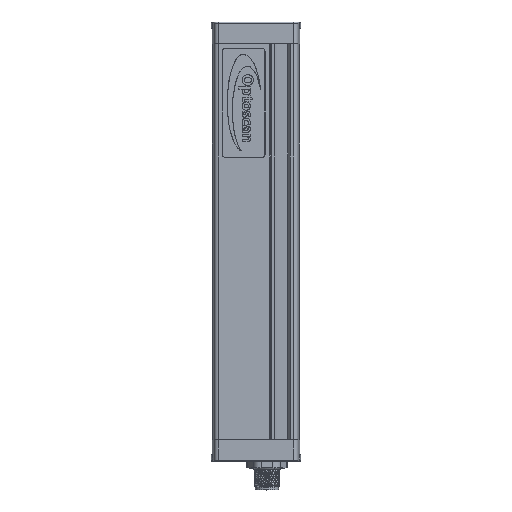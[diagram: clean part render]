
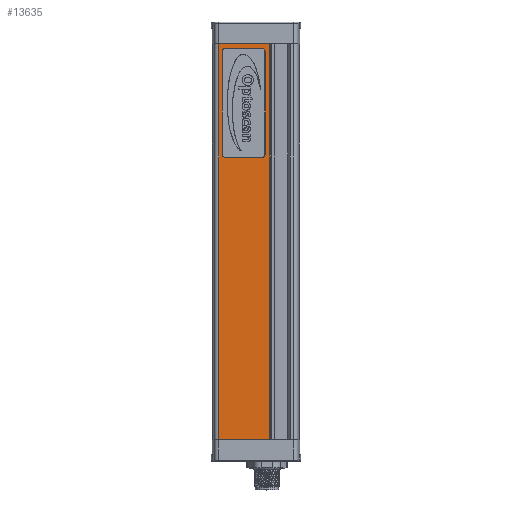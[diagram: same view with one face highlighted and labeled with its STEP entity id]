
A CAD part, top view. The second image highlights one B-rep face of the part: STEP entity #13635.
In plain terms, the highlighted planar face has unit normal (0, 0, 1).
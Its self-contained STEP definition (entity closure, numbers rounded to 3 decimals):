
#165=FACE_BOUND('',#2115,.T.);
#475=CIRCLE('',#14507,1.49);
#476=CIRCLE('',#14508,1.49);
#477=CIRCLE('',#14509,1.49);
#478=CIRCLE('',#14510,1.49);
#992=PLANE('',#14506);
#1357=FACE_OUTER_BOUND('',#2114,.T.);
#2114=EDGE_LOOP('',(#9142,#9143,#9144,#9145));
#2115=EDGE_LOOP('',(#9146,#9147,#9148,#9149,#9150,#9151,#9152,#9153));
#3341=LINE('',#20186,#4403);
#3353=LINE('',#20220,#4415);
#3367=LINE('',#20257,#4429);
#3368=LINE('',#20258,#4430);
#3369=LINE('',#20263,#4431);
#3370=LINE('',#20267,#4432);
#3371=LINE('',#20271,#4433);
#3372=LINE('',#20274,#4434);
#4403=VECTOR('',#16079,10.);
#4415=VECTOR('',#16103,10.);
#4429=VECTOR('',#16131,10.);
#4430=VECTOR('',#16132,10.);
#4431=VECTOR('',#16135,10.);
#4432=VECTOR('',#16138,10.);
#4433=VECTOR('',#16141,10.);
#4434=VECTOR('',#16144,10.);
#5562=VERTEX_POINT('',#20183);
#5563=VERTEX_POINT('',#20185);
#5578=VERTEX_POINT('',#20217);
#5579=VERTEX_POINT('',#20219);
#5596=VERTEX_POINT('',#20259);
#5597=VERTEX_POINT('',#20260);
#5598=VERTEX_POINT('',#20262);
#5599=VERTEX_POINT('',#20264);
#5600=VERTEX_POINT('',#20266);
#5601=VERTEX_POINT('',#20268);
#5602=VERTEX_POINT('',#20270);
#5603=VERTEX_POINT('',#20272);
#6916=EDGE_CURVE('',#5562,#5563,#3341,.T.);
#6932=EDGE_CURVE('',#5579,#5578,#3353,.T.);
#6950=EDGE_CURVE('',#5578,#5563,#3367,.T.);
#6951=EDGE_CURVE('',#5579,#5562,#3368,.T.);
#6952=EDGE_CURVE('',#5596,#5597,#475,.T.);
#6953=EDGE_CURVE('',#5598,#5596,#3369,.T.);
#6954=EDGE_CURVE('',#5599,#5598,#476,.T.);
#6955=EDGE_CURVE('',#5600,#5599,#3370,.T.);
#6956=EDGE_CURVE('',#5601,#5600,#477,.T.);
#6957=EDGE_CURVE('',#5602,#5601,#3371,.T.);
#6958=EDGE_CURVE('',#5603,#5602,#478,.T.);
#6959=EDGE_CURVE('',#5597,#5603,#3372,.T.);
#9142=ORIENTED_EDGE('',*,*,#6932,.T.);
#9143=ORIENTED_EDGE('',*,*,#6950,.T.);
#9144=ORIENTED_EDGE('',*,*,#6916,.F.);
#9145=ORIENTED_EDGE('',*,*,#6951,.F.);
#9146=ORIENTED_EDGE('',*,*,#6952,.F.);
#9147=ORIENTED_EDGE('',*,*,#6953,.F.);
#9148=ORIENTED_EDGE('',*,*,#6954,.F.);
#9149=ORIENTED_EDGE('',*,*,#6955,.F.);
#9150=ORIENTED_EDGE('',*,*,#6956,.F.);
#9151=ORIENTED_EDGE('',*,*,#6957,.F.);
#9152=ORIENTED_EDGE('',*,*,#6958,.F.);
#9153=ORIENTED_EDGE('',*,*,#6959,.F.);
#13635=ADVANCED_FACE('',(#1357,#165),#992,.T.);
#14506=AXIS2_PLACEMENT_3D('',#20256,#16129,#16130);
#14507=AXIS2_PLACEMENT_3D('',#20261,#16133,#16134);
#14508=AXIS2_PLACEMENT_3D('',#20265,#16136,#16137);
#14509=AXIS2_PLACEMENT_3D('',#20269,#16139,#16140);
#14510=AXIS2_PLACEMENT_3D('',#20273,#16142,#16143);
#16079=DIRECTION('',(1.,0.,0.));
#16103=DIRECTION('',(1.,0.,0.));
#16129=DIRECTION('center_axis',(0.,0.,
1.));
#16130=DIRECTION('ref_axis',(1.,0.,0.));
#16131=DIRECTION('',(0.,1.,0.));
#16132=DIRECTION('',(0.,1.,0.));
#16133=DIRECTION('center_axis',(0.,0.,
1.));
#16134=DIRECTION('ref_axis',(0.707,0.707,0.));
#16135=DIRECTION('',(0.,1.,0.));
#16136=DIRECTION('center_axis',(0.,0.,
1.));
#16137=DIRECTION('ref_axis',(0.707,-0.707,0.));
#16138=DIRECTION('',(1.,0.,0.));
#16139=DIRECTION('center_axis',(0.,0.,
1.));
#16140=DIRECTION('ref_axis',(-0.707,-0.707,0.));
#16141=DIRECTION('',(0.,-1.,0.));
#16142=DIRECTION('center_axis',(0.,0.,
1.));
#16143=DIRECTION('ref_axis',(-0.707,0.707,0.));
#16144=DIRECTION('',(-1.,0.,0.));
#20183=CARTESIAN_POINT('',(-12.565,180.,1.277));
#20185=CARTESIAN_POINT('',(10.736,180.,1.277));
#20186=CARTESIAN_POINT('',(-12.565,180.,1.277));
#20217=CARTESIAN_POINT('',(10.736,0.,1.277));
#20219=CARTESIAN_POINT('',(-12.565,0.,1.277));
#20220=CARTESIAN_POINT('',(-12.565,0.,1.277));
#20256=CARTESIAN_POINT('Origin',(-12.565,0.,
1.277));
#20257=CARTESIAN_POINT('',(10.736,0.,1.277));
#20258=CARTESIAN_POINT('',(-12.565,0.,1.277));
#20259=CARTESIAN_POINT('',(8.576,176.5,1.277));
#20260=CARTESIAN_POINT('',(7.086,177.99,1.277));
#20261=CARTESIAN_POINT('Origin',(7.086,176.5,1.277));
#20262=CARTESIAN_POINT('',(8.576,129.7,1.277));
#20263=CARTESIAN_POINT('',(8.576,141.4,1.277));
#20264=CARTESIAN_POINT('',(7.086,128.21,1.277));
#20265=CARTESIAN_POINT('Origin',(7.086,129.7,1.277));
#20266=CARTESIAN_POINT('',(-9.314,128.21,1.277));
#20267=CARTESIAN_POINT('',(-5.214,128.21,1.277));
#20268=CARTESIAN_POINT('',(-10.804,129.7,1.277));
#20269=CARTESIAN_POINT('Origin',(-9.314,129.7,1.277));
#20270=CARTESIAN_POINT('',(-10.804,176.5,1.277));
#20271=CARTESIAN_POINT('',(-10.804,164.8,1.277));
#20272=CARTESIAN_POINT('',(-9.314,177.99,1.277));
#20273=CARTESIAN_POINT('Origin',(-9.314,176.5,1.277));
#20274=CARTESIAN_POINT('',(2.986,177.99,1.277));
